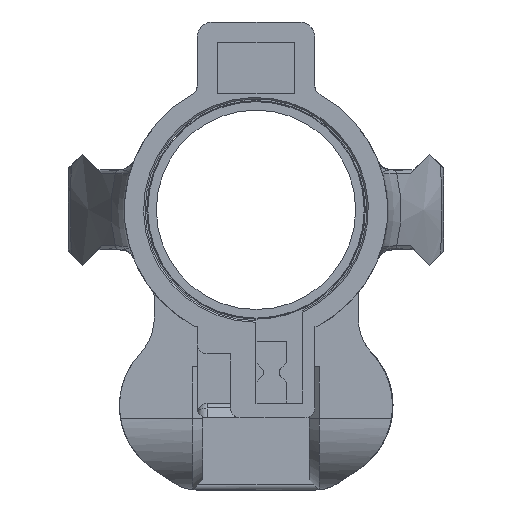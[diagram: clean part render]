
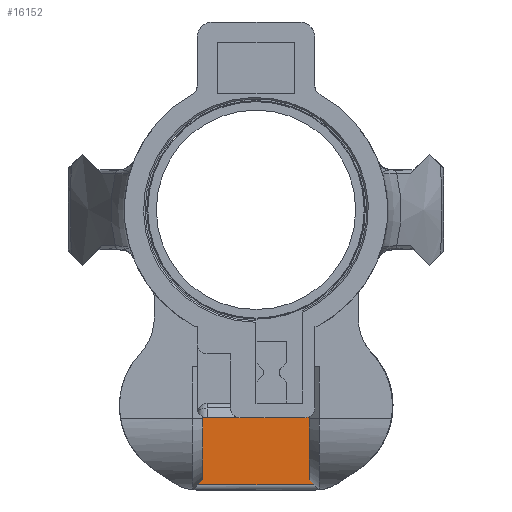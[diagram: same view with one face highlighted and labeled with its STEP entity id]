
A CAD part, front view. The second image highlights one B-rep face of the part: STEP entity #16152.
In plain terms, the highlighted planar face has unit normal (0, -1, 0).
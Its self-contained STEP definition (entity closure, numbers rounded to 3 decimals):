
#972=FACE_OUTER_BOUND('',#1815,.T.);
#1815=EDGE_LOOP('',(#12542,#12543,#12544,#12545,#12546,#12547));
#3391=LINE('',#24297,#5407);
#3392=LINE('',#24301,#5408);
#3393=LINE('',#24303,#5409);
#3394=LINE('',#24305,#5410);
#3395=LINE('',#24307,#5411);
#3396=LINE('',#24308,#5412);
#5407=VECTOR('',#19669,10.);
#5408=VECTOR('',#19674,10.);
#5409=VECTOR('',#19675,10.);
#5410=VECTOR('',#19676,10.);
#5411=VECTOR('',#19677,10.);
#5412=VECTOR('',#19678,10.);
#7125=VERTEX_POINT('',#24294);
#7126=VERTEX_POINT('',#24296);
#7127=VERTEX_POINT('',#24300);
#7128=VERTEX_POINT('',#24302);
#7129=VERTEX_POINT('',#24304);
#7130=VERTEX_POINT('',#24306);
#9070=EDGE_CURVE('',#7125,#7126,#3391,.T.);
#9072=EDGE_CURVE('',#7127,#7125,#3392,.F.);
#9073=EDGE_CURVE('',#7128,#7127,#3393,.T.);
#9074=EDGE_CURVE('',#7129,#7128,#3394,.T.);
#9075=EDGE_CURVE('',#7130,#7129,#3395,.T.);
#9076=EDGE_CURVE('',#7126,#7130,#3396,.F.);
#12542=ORIENTED_EDGE('',*,*,#9070,.F.);
#12543=ORIENTED_EDGE('',*,*,#9072,.F.);
#12544=ORIENTED_EDGE('',*,*,#9073,.F.);
#12545=ORIENTED_EDGE('',*,*,#9074,.F.);
#12546=ORIENTED_EDGE('',*,*,#9075,.F.);
#12547=ORIENTED_EDGE('',*,*,#9076,.F.);
#15469=PLANE('',#17070);
#16152=ADVANCED_FACE('',(#972),#15469,.F.);
#17070=AXIS2_PLACEMENT_3D('',#24299,#19672,#19673);
#19669=DIRECTION('',(-1.,0.,0.));
#19672=DIRECTION('center_axis',(0.,1.,0.));
#19673=DIRECTION('ref_axis',(-1.,0.,0.));
#19674=DIRECTION('',(-0.707,0.,0.707));
#19675=DIRECTION('',(0.,0.,-1.));
#19676=DIRECTION('',(1.,0.,0.));
#19677=DIRECTION('',(0.,0.,1.));
#19678=DIRECTION('',(-0.707,0.,-0.707));
#24294=CARTESIAN_POINT('',(1.036,106.394,3.624));
#24296=CARTESIAN_POINT('',(-21.764,106.394,3.624));
#24297=CARTESIAN_POINT('',(-10.364,106.394,3.624));
#24299=CARTESIAN_POINT('Origin',(-10.364,106.394,14.674));
#24300=CARTESIAN_POINT('',(0.036,106.394,4.624));
#24301=CARTESIAN_POINT('',(-4.576,106.394,9.237));
#24302=CARTESIAN_POINT('',(0.036,106.394,26.724));
#24303=CARTESIAN_POINT('',(0.036,106.394,2.624));
#24304=CARTESIAN_POINT('',(-20.764,106.394,26.724));
#24305=CARTESIAN_POINT('',(0.036,106.394,26.724));
#24306=CARTESIAN_POINT('',(-20.764,106.394,4.624));
#24307=CARTESIAN_POINT('',(-20.764,106.394,26.724));
#24308=CARTESIAN_POINT('',(-16.151,106.394,9.237));
